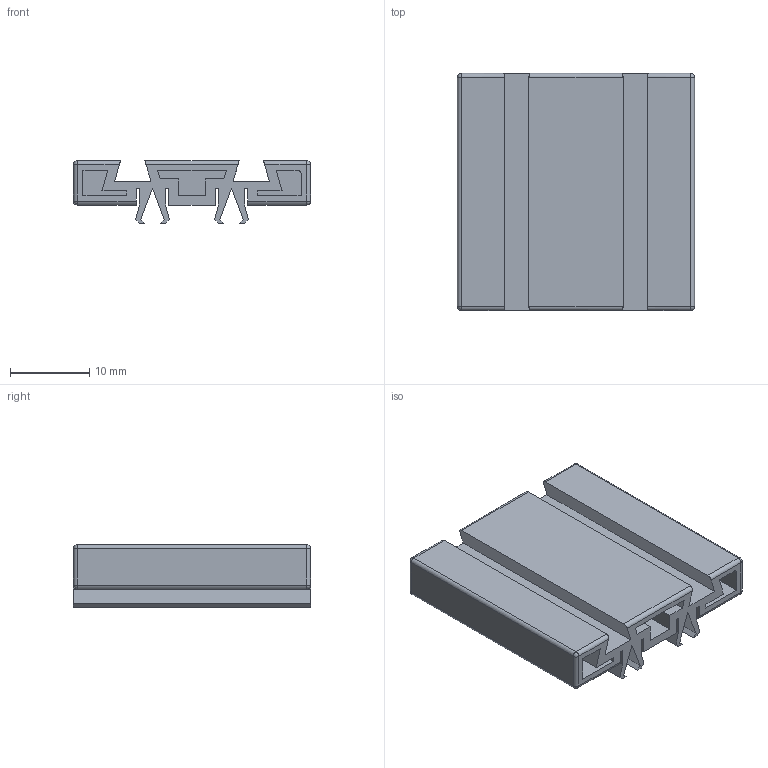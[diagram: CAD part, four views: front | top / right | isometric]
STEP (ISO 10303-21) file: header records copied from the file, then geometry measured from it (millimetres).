
FILE_DESCRIPTION(/* description */ (''),/* implementation_level */ '2;1');
FILE_NAME(/* name */ 'C:/Users/priba/Downloads/MRMSToFTAdapter.step',/* time_stamp */ '2022-04-03T11:15:26+02:00',/* author */ (''),/* organization */ (''),/* preprocessor_version */ 'ST-DEVELOPER v18.1',/* originating_system */ 'Autodesk Translation Framework v10.13.0.1454',/* authorisation */ '');
FILE_SCHEMA (('AUTOMOTIVE_DESIGN { 1 0 10303 214 3 1 1 }'));
Length unit declared in the file: millimetre
Products named in the file (1): MRMSToFTAdapter
Bounding box: 30 x 30 x 7.91 mm (x, y, z)
Volume: 3342.7 mm3; surface area: 5795 mm2
Topology: 1 solids, 1 shells, 101 faces, 264 edges, 168 vertices
Faces by surface type: plane 73, cylinder 20, sphere 8
Entity records: 3068 total; most frequent: CARTESIAN_POINT 534, ORIENTED_EDGE 528, DIRECTION 508, EDGE_CURVE 264, LINE 224, VECTOR 224, VERTEX_POINT 168, AXIS2_PLACEMENT_3D 142
